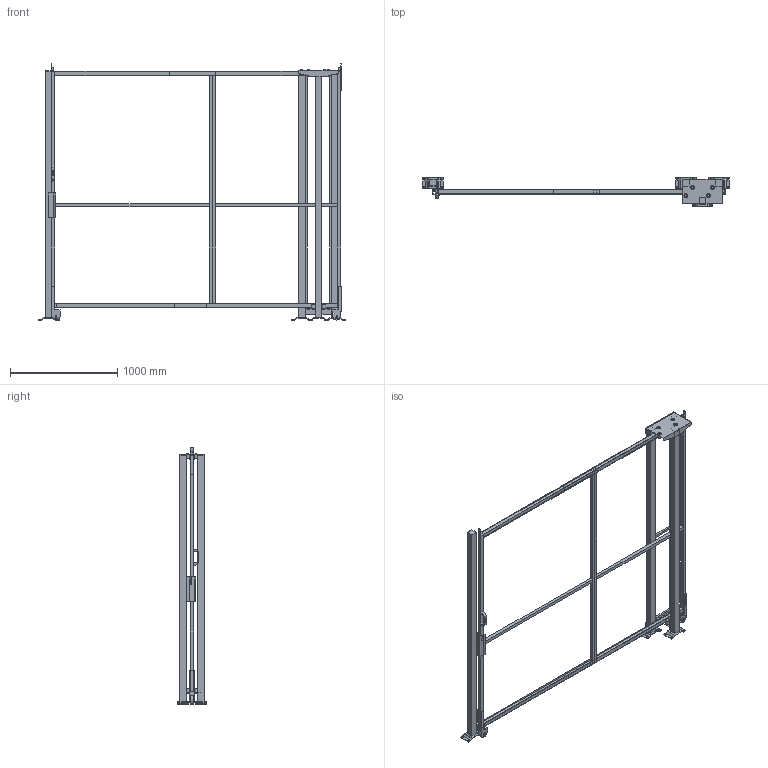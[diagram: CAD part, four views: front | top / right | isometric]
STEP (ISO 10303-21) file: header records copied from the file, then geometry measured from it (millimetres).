
FILE_DESCRIPTION(/* description */ (''),/* implementation_level */ '2;1');
FILE_NAME(/* name */ 'C:\SafeGuarding\ELABORATI\KLADKA_2025-03-20-09-17-09.stp',/* time_stamp */ '2025-03-20T09:17:12+01:00',/* author */ ('admin'),/* organization */ (''),/* preprocessor_version */ 'ST-DEVELOPER v18.1',/* originating_system */ 'AutoCAD Mechanical',/* authorisation */ '');
FILE_SCHEMA (('AUTOMOTIVE_DESIGN { 1 0 10303 214 3 1 1 }'));
Length unit declared in the file: millimetre
Products named in the file (5): Product; R_VFPA.REPE30.12002200; R_VFPA.REPE30.15002200; R_VFPA.REPE20.02502200; P_VFMA.V360SDU.2320
Assembly tree (7 placements, depth 2):
  Product
    R_VFPA.REPE30.12002200
    R_VFPA.REPE30.15002200
    R_VFPA.REPE20.02502200
    P_VFMA.V360SDU.2320  x4
Bounding box: 2862.03 x 264.11 x 2390.02 mm (x, y, z)
Volume: 53632054.2 mm3; surface area: 7003603.9 mm2
Topology: 60 solids, 71 shells, 549 faces, 1727 edges, 1765 vertices
Faces by surface type: plane 497, cylinder 50, sphere 2
Full cylindrical faces by diameter (mm): 9 x4, 11 x16, 13 x4, 30 x6, 36 x8, 80 x2
Entity records: 16123 total; most frequent: CARTESIAN_POINT 3503, DIRECTION 2439, ORIENTED_EDGE 2178, LINE 1209, VECTOR 1209, EDGE_CURVE 1138, VERTEX_POINT 798, AXIS2_PLACEMENT_3D 615
